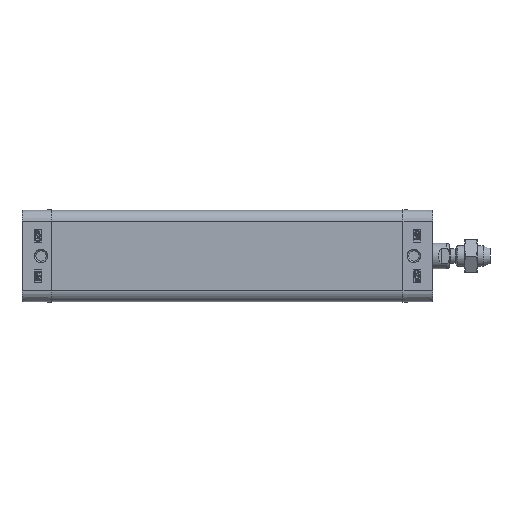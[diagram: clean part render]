
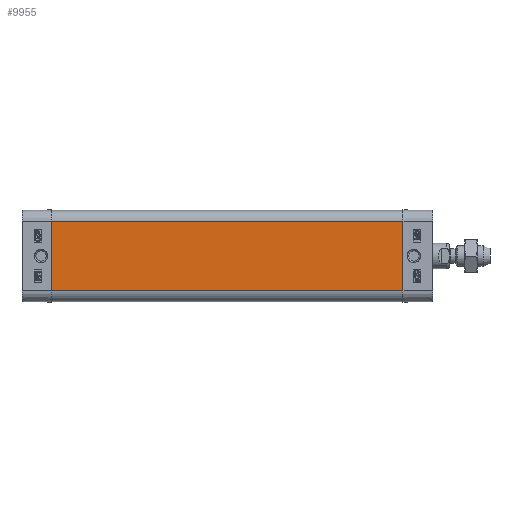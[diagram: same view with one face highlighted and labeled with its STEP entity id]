
A CAD part, left-side view. The second image highlights one B-rep face of the part: STEP entity #9955.
In plain terms, the highlighted planar face has unit normal (-1, 0, 0).
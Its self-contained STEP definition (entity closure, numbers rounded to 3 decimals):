
#957=LINE('',#17835,#1803);
#985=LINE('',#17948,#1831);
#1067=LINE('',#18168,#1913);
#1068=LINE('',#18170,#1914);
#1803=VECTOR('',#15115,1000.);
#1831=VECTOR('',#15201,1000.);
#1913=VECTOR('',#15447,1000.);
#1914=VECTOR('',#15450,1000.);
#3016=ORIENTED_EDGE('',*,*,#5612,.T.);
#3017=ORIENTED_EDGE('',*,*,#5778,.T.);
#3018=ORIENTED_EDGE('',*,*,#5779,.T.);
#3019=ORIENTED_EDGE('',*,*,#5668,.F.);
#5612=EDGE_CURVE('',#7053,#7054,#957,.T.);
#5668=EDGE_CURVE('',#7053,#7109,#985,.T.);
#5778=EDGE_CURVE('',#7054,#7164,#1067,.T.);
#5779=EDGE_CURVE('',#7164,#7109,#1068,.T.);
#7053=VERTEX_POINT('',#17836);
#7054=VERTEX_POINT('',#17837);
#7109=VERTEX_POINT('',#17949);
#7164=VERTEX_POINT('',#18167);
#8142=EDGE_LOOP('',(#3016,#3017,#3018,#3019));
#8908=FACE_BOUND('',#8142,.T.);
#9621=PLANE('',#14265);
#9955=ADVANCED_FACE('',(#8908),#9621,.T.);
#14265=AXIS2_PLACEMENT_3D('',#18169,#15448,#15449);
#15115=DIRECTION('',(0.,0.,-1.));
#15201=DIRECTION('',(0.,-1.,0.));
#15447=DIRECTION('',(0.,-1.,0.));
#15448=DIRECTION('',(-1.,0.,0.));
#15449=DIRECTION('',(0.,0.,1.));
#15450=DIRECTION('',(0.,0.,1.));
#17835=CARTESIAN_POINT('',(-18.,9.25,13.5));
#17836=CARTESIAN_POINT('',(-18.,9.25,13.5));
#17837=CARTESIAN_POINT('',(-18.,9.25,-13.5));
#17948=CARTESIAN_POINT('',(-18.,0.,13.5));
#17949=CARTESIAN_POINT('',(-18.,-129.15,13.5));
#18167=CARTESIAN_POINT('',(-18.,-129.15,-13.5));
#18168=CARTESIAN_POINT('',(-18.,0.,-13.5));
#18169=CARTESIAN_POINT('',(-18.,0.,13.5));
#18170=CARTESIAN_POINT('',(-18.,-129.15,13.5));
